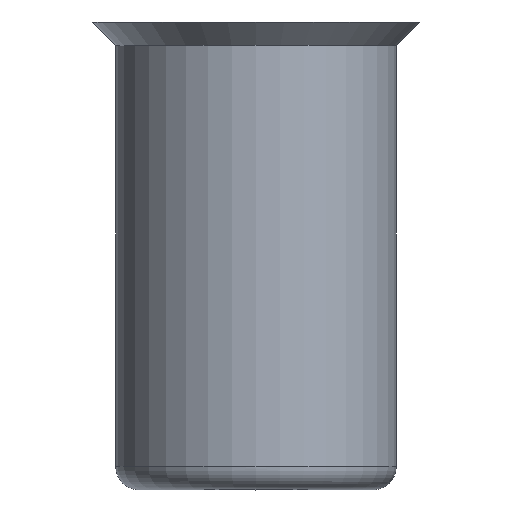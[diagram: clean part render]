
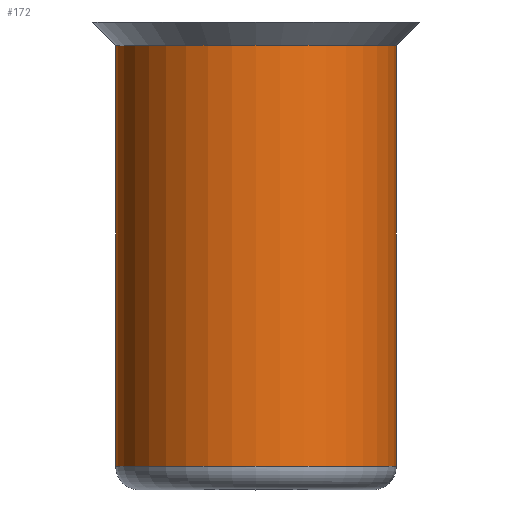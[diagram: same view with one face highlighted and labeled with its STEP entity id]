
A CAD part, top view. The second image highlights one B-rep face of the part: STEP entity #172.
In plain terms, the highlighted cylindrical face has radius 3 mm (diameter 6 mm), a full revolution.
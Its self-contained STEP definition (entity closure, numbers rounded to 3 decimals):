
#7 = AXIS2_PLACEMENT_3D ( 'NONE', #40, #158, #170 ) ;
#18 = ORIENTED_EDGE ( 'NONE', *, *, #30, .T. ) ;
#19 = AXIS2_PLACEMENT_3D ( 'NONE', #194, #112, #24 ) ;
#24 = DIRECTION ( 'NONE',  ( 0., 0., -1. ) ) ;
#26 = VERTEX_POINT ( 'NONE', #75 ) ;
#30 = EDGE_CURVE ( 'NONE', #26, #26, #196, .T. ) ;
#32 = CARTESIAN_POINT ( 'NONE',  ( 0., -0.5, -3. ) ) ;
#40 = CARTESIAN_POINT ( 'NONE',  ( 0., -9.5, 0. ) ) ;
#56 = CARTESIAN_POINT ( 'NONE',  ( 0., 0., 0. ) ) ;
#59 = VERTEX_POINT ( 'NONE', #32 ) ;
#66 = EDGE_CURVE ( 'NONE', #59, #59, #162, .T. ) ;
#75 = CARTESIAN_POINT ( 'NONE',  ( 0., -9.5, 3. ) ) ;
#76 = ORIENTED_EDGE ( 'NONE', *, *, #66, .T. ) ;
#91 = DIRECTION ( 'NONE',  ( 0., 0., -1. ) ) ;
#94 = EDGE_LOOP ( 'NONE', ( #18 ) ) ;
#100 = FACE_OUTER_BOUND ( 'NONE', #94, .T. ) ;
#108 = EDGE_LOOP ( 'NONE', ( #76 ) ) ;
#112 = DIRECTION ( 'NONE',  ( 0., -1., 0. ) ) ;
#117 = CYLINDRICAL_SURFACE ( 'NONE', #192, 3. ) ;
#158 = DIRECTION ( 'NONE',  ( 0., 1., 0. ) ) ;
#162 = CIRCLE ( 'NONE', #19, 3. ) ;
#163 = DIRECTION ( 'NONE',  ( 0., -1., 0. ) ) ;
#170 = DIRECTION ( 'NONE',  ( 0., 0., 1. ) ) ;
#172 = ADVANCED_FACE ( 'NONE', ( #100, #198 ), #117, .T. ) ;
#192 = AXIS2_PLACEMENT_3D ( 'NONE', #56, #163, #91 ) ;
#194 = CARTESIAN_POINT ( 'NONE',  ( 0., -0.5, 0. ) ) ;
#196 = CIRCLE ( 'NONE', #7, 3. ) ;
#198 = FACE_OUTER_BOUND ( 'NONE', #108, .T. ) ;
